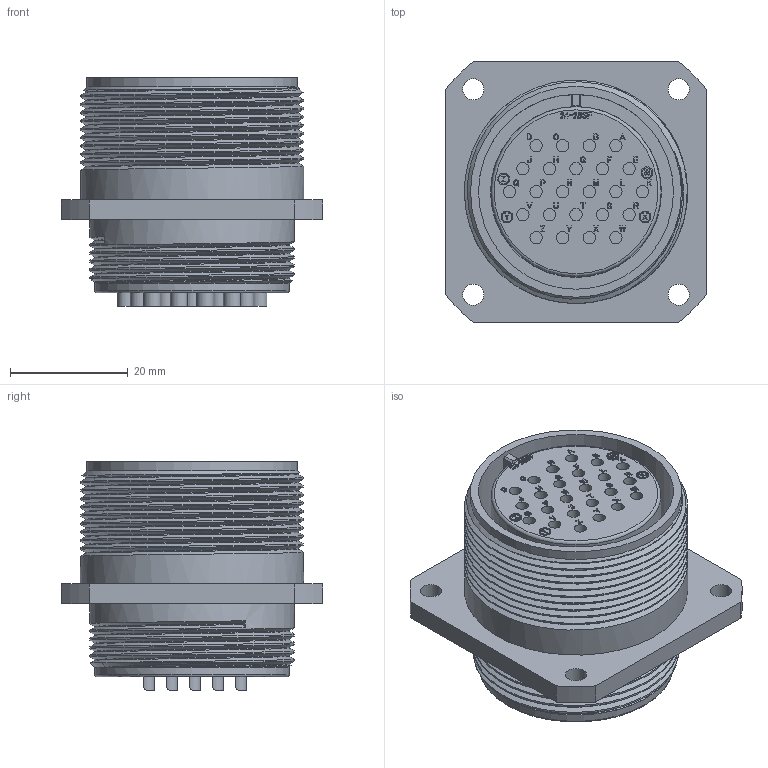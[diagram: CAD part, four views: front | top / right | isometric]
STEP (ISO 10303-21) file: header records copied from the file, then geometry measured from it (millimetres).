
FILE_DESCRIPTION (( 'STEP AP203' ), '1' );
FILE_NAME ('DMS3100A24-28S(D263).STEP', '2022-02-10T01:17:11', ( '' ), ( '' ), 'SwSTEP 2.0', 'SolidWorks 2018', '' );
FILE_SCHEMA (( 'CONFIG_CONTROL_DESIGN' ));
Products named in the file (1): DMS3100A24-28S(D263)
Bounding box: 44.45 x 44.45 x 38.92 mm (x, y, z)
Volume: 32754.4 mm3; surface area: 18279.7 mm2
Topology: 1 solids, 1 shells, 1518 faces, 4010 edges, 2680 vertices
Faces by surface type: plane 887, bspline 390, cylinder 236, cone 3, torus 2
Full cylindrical faces by diameter (mm): 1.7 x4, 2 x4, 2.11 x24, 3.61 x4, 3.8 x24, 28.85 x1, 29.08 x1, 30.75 x1, 33.12 x1, 33.15 x1, 34.83 x5, 35.87 x1, 37.95 x9
Entity records: 61022 total; most frequent: CARTESIAN_POINT 27042, ORIENTED_EDGE 7724, DIRECTION 5411, EDGE_CURVE 3862, VERTEX_POINT 2619, VECTOR 2477, LINE 2477, EDGE_LOOP 1769
